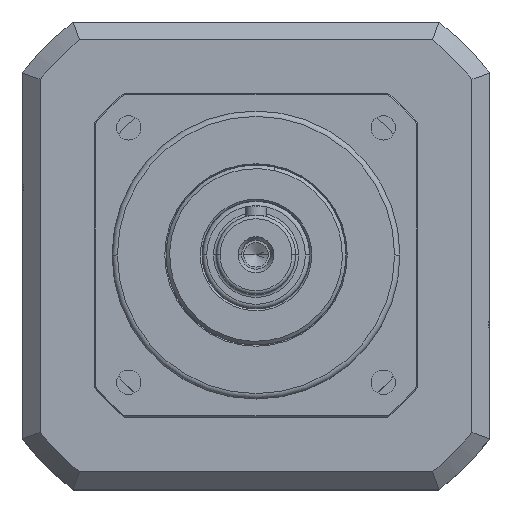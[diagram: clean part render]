
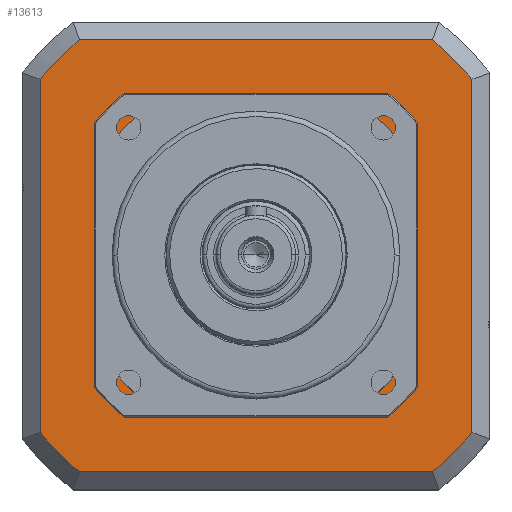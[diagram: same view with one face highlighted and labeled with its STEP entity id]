
A CAD part, top view. The second image highlights one B-rep face of the part: STEP entity #13613.
In plain terms, the highlighted planar face has unit normal (0, 0, 1).
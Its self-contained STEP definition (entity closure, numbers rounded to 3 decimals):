
#173 = CIRCLE ( 'NONE', #21411, 77.5 ) ;
#206 = VECTOR ( 'NONE', #16252, 1000. ) ;
#308 = CARTESIAN_POINT ( 'NONE',  ( 0., 0., -134. ) ) ;
#475 = DIRECTION ( 'NONE',  ( 0., 0., 1. ) ) ;
#1033 = VECTOR ( 'NONE', #20830, 1000. ) ;
#1130 = LINE ( 'NONE', #1470, #20808 ) ;
#1245 = DIRECTION ( 'NONE',  ( 1., 0., 0. ) ) ;
#1257 = CARTESIAN_POINT ( 'NONE',  ( -60., 0., -134. ) ) ;
#1271 = DIRECTION ( 'NONE',  ( 0., 0., 1. ) ) ;
#1349 = CARTESIAN_POINT ( 'NONE',  ( 0., 0., -134. ) ) ;
#1412 = CARTESIAN_POINT ( 'NONE',  ( -49.054, -60., -134. ) ) ;
#1470 = CARTESIAN_POINT ( 'NONE',  ( -24., 45., -134. ) ) ;
#1487 = DIRECTION ( 'NONE',  ( 1., 0., 0. ) ) ;
#1538 = AXIS2_PLACEMENT_3D ( 'NONE', #18566, #4929, #12008 ) ;
#1556 = CARTESIAN_POINT ( 'NONE',  ( 45., -24., -134. ) ) ;
#1833 = ORIENTED_EDGE ( 'NONE', *, *, #18789, .F. ) ;
#1886 = ORIENTED_EDGE ( 'NONE', *, *, #22046, .F. ) ;
#1948 = ORIENTED_EDGE ( 'NONE', *, *, #2676, .T. ) ;
#2408 = ORIENTED_EDGE ( 'NONE', *, *, #13353, .F. ) ;
#2528 = VERTEX_POINT ( 'NONE', #16392 ) ;
#2676 = EDGE_CURVE ( 'NONE', #3625, #5886, #6418, .T. ) ;
#2877 = DIRECTION ( 'NONE',  ( 1., 0., 0. ) ) ;
#3034 = CARTESIAN_POINT ( 'NONE',  ( 60., -49.054, -134. ) ) ;
#3199 = EDGE_CURVE ( 'NONE', #8225, #3625, #4095, .T. ) ;
#3478 = DIRECTION ( 'NONE',  ( 1., 0., 0. ) ) ;
#3593 = CIRCLE ( 'NONE', #21547, 51. ) ;
#3625 = VERTEX_POINT ( 'NONE', #15289 ) ;
#4095 = CIRCLE ( 'NONE', #16919, 77.5 ) ;
#4929 = DIRECTION ( 'NONE',  ( 0., 0., 1. ) ) ;
#5091 = CARTESIAN_POINT ( 'NONE',  ( 0., 0., -134. ) ) ;
#5197 = DIRECTION ( 'NONE',  ( 1., 0., 0. ) ) ;
#5380 = EDGE_CURVE ( 'NONE', #5599, #19102, #8931, .T. ) ;
#5599 = VERTEX_POINT ( 'NONE', #10629 ) ;
#5874 = VECTOR ( 'NONE', #16728, 1000. ) ;
#5886 = VERTEX_POINT ( 'NONE', #7717 ) ;
#6242 = DIRECTION ( 'NONE',  ( 1., 0., 0. ) ) ;
#6418 = LINE ( 'NONE', #1257, #7776 ) ;
#6543 = CARTESIAN_POINT ( 'NONE',  ( -24., 45., -134. ) ) ;
#6571 = DIRECTION ( 'NONE',  ( 0., 0., 1. ) ) ;
#6672 = CARTESIAN_POINT ( 'NONE',  ( 49.054, 60., -134. ) ) ;
#6834 = LINE ( 'NONE', #13806, #1033 ) ;
#6920 = VERTEX_POINT ( 'NONE', #1556 ) ;
#7175 = CARTESIAN_POINT ( 'NONE',  ( -45., 24., -134. ) ) ;
#7582 = EDGE_CURVE ( 'NONE', #17428, #19541, #17875, .T. ) ;
#7590 = VERTEX_POINT ( 'NONE', #6543 ) ;
#7717 = CARTESIAN_POINT ( 'NONE',  ( -60., -49.054, -134. ) ) ;
#7776 = VECTOR ( 'NONE', #21812, 1000. ) ;
#7902 = VERTEX_POINT ( 'NONE', #11211 ) ;
#8057 = LINE ( 'NONE', #15054, #9868 ) ;
#8225 = VERTEX_POINT ( 'NONE', #20149 ) ;
#8231 = CARTESIAN_POINT ( 'NONE',  ( -24., -45., -134. ) ) ;
#8419 = ORIENTED_EDGE ( 'NONE', *, *, #21764, .T. ) ;
#8467 = LINE ( 'NONE', #12014, #11680 ) ;
#8533 = CARTESIAN_POINT ( 'NONE',  ( 0., 0., -134. ) ) ;
#8644 = ORIENTED_EDGE ( 'NONE', *, *, #17375, .F. ) ;
#8663 = DIRECTION ( 'NONE',  ( 0., 0., 1. ) ) ;
#8726 = ORIENTED_EDGE ( 'NONE', *, *, #19504, .T. ) ;
#8931 = CIRCLE ( 'NONE', #16653, 77.5 ) ;
#9137 = AXIS2_PLACEMENT_3D ( 'NONE', #1349, #18911, #1245 ) ;
#9347 = FACE_OUTER_BOUND ( 'NONE', #19597, .T. ) ;
#9362 = LINE ( 'NONE', #10966, #206 ) ;
#9554 = CARTESIAN_POINT ( 'NONE',  ( 0., -60., -134. ) ) ;
#9868 = VECTOR ( 'NONE', #13437, 1000. ) ;
#9935 = ORIENTED_EDGE ( 'NONE', *, *, #22306, .T. ) ;
#9986 = ORIENTED_EDGE ( 'NONE', *, *, #20311, .T. ) ;
#10147 = DIRECTION ( 'NONE',  ( 1., 0., 0. ) ) ;
#10413 = DIRECTION ( 'NONE',  ( 0., 0., 1. ) ) ;
#10629 = CARTESIAN_POINT ( 'NONE',  ( 49.054, -60., -134. ) ) ;
#10966 = CARTESIAN_POINT ( 'NONE',  ( 60., 0., -134. ) ) ;
#10971 = ORIENTED_EDGE ( 'NONE', *, *, #5380, .T. ) ;
#11068 = PLANE ( 'NONE',  #15028 ) ;
#11211 = CARTESIAN_POINT ( 'NONE',  ( 60., 49.054, -134. ) ) ;
#11621 = DIRECTION ( 'NONE',  ( 1., 0., 0. ) ) ;
#11680 = VECTOR ( 'NONE', #12133, 1000. ) ;
#11845 = CARTESIAN_POINT ( 'NONE',  ( 45., 24., -134. ) ) ;
#11893 = EDGE_LOOP ( 'NONE', ( #17482, #8644, #19239, #21735, #1833, #16426, #2408, #1886 ) ) ;
#12008 = DIRECTION ( 'NONE',  ( 1., 0., 0. ) ) ;
#12014 = CARTESIAN_POINT ( 'NONE',  ( 0., 60., -134. ) ) ;
#12020 = VERTEX_POINT ( 'NONE', #1412 ) ;
#12044 = EDGE_CURVE ( 'NONE', #13543, #12946, #8057, .T. ) ;
#12133 = DIRECTION ( 'NONE',  ( -1., 0., 0. ) ) ;
#12798 = VECTOR ( 'NONE', #6242, 1000. ) ;
#12946 = VERTEX_POINT ( 'NONE', #15460 ) ;
#12982 = CIRCLE ( 'NONE', #19967, 51. ) ;
#13336 = EDGE_CURVE ( 'NONE', #5886, #12020, #22392, .T. ) ;
#13341 = ORIENTED_EDGE ( 'NONE', *, *, #3199, .T. ) ;
#13353 = EDGE_CURVE ( 'NONE', #2528, #19762, #17179, .T. ) ;
#13437 = DIRECTION ( 'NONE',  ( 0., -1., 0. ) ) ;
#13543 = VERTEX_POINT ( 'NONE', #7175 ) ;
#13613 = ADVANCED_FACE ( 'NONE', ( #9347, #14393 ), #11068, .T. ) ;
#13806 = CARTESIAN_POINT ( 'NONE',  ( 45., 24., -134. ) ) ;
#14393 = FACE_BOUND ( 'NONE', #11893, .T. ) ;
#14550 = AXIS2_PLACEMENT_3D ( 'NONE', #16994, #1271, #2877 ) ;
#14593 = EDGE_CURVE ( 'NONE', #19762, #6920, #21321, .T. ) ;
#14747 = DIRECTION ( 'NONE',  ( 0., 0., 1. ) ) ;
#15028 = AXIS2_PLACEMENT_3D ( 'NONE', #308, #14747, #19800 ) ;
#15054 = CARTESIAN_POINT ( 'NONE',  ( -45., 24., -134. ) ) ;
#15289 = CARTESIAN_POINT ( 'NONE',  ( -60., 49.054, -134. ) ) ;
#15460 = CARTESIAN_POINT ( 'NONE',  ( -45., -24., -134. ) ) ;
#16252 = DIRECTION ( 'NONE',  ( 0., 1., 0. ) ) ;
#16392 = CARTESIAN_POINT ( 'NONE',  ( -24., -45., -134. ) ) ;
#16426 = ORIENTED_EDGE ( 'NONE', *, *, #14593, .F. ) ;
#16653 = AXIS2_PLACEMENT_3D ( 'NONE', #21359, #475, #5197 ) ;
#16728 = DIRECTION ( 'NONE',  ( 1., 0., 0. ) ) ;
#16919 = AXIS2_PLACEMENT_3D ( 'NONE', #22584, #8663, #10147 ) ;
#16994 = CARTESIAN_POINT ( 'NONE',  ( 0., 0., -134. ) ) ;
#16999 = EDGE_CURVE ( 'NONE', #19541, #7590, #1130, .T. ) ;
#17179 = LINE ( 'NONE', #8231, #5874 ) ;
#17375 = EDGE_CURVE ( 'NONE', #7590, #13543, #3593, .T. ) ;
#17428 = VERTEX_POINT ( 'NONE', #11845 ) ;
#17482 = ORIENTED_EDGE ( 'NONE', *, *, #12044, .F. ) ;
#17875 = CIRCLE ( 'NONE', #14550, 51. ) ;
#18544 = CARTESIAN_POINT ( 'NONE',  ( 24., -45., -134. ) ) ;
#18566 = CARTESIAN_POINT ( 'NONE',  ( 0., 0., -134. ) ) ;
#18789 = EDGE_CURVE ( 'NONE', #6920, #17428, #6834, .T. ) ;
#18911 = DIRECTION ( 'NONE',  ( 0., 0., 1. ) ) ;
#18912 = DIRECTION ( 'NONE',  ( -1., 0., 0. ) ) ;
#19102 = VERTEX_POINT ( 'NONE', #3034 ) ;
#19147 = CARTESIAN_POINT ( 'NONE',  ( 24., 45., -134. ) ) ;
#19239 = ORIENTED_EDGE ( 'NONE', *, *, #16999, .F. ) ;
#19370 = CARTESIAN_POINT ( 'NONE',  ( 0., 0., -134. ) ) ;
#19504 = EDGE_CURVE ( 'NONE', #20783, #8225, #8467, .T. ) ;
#19541 = VERTEX_POINT ( 'NONE', #19147 ) ;
#19597 = EDGE_LOOP ( 'NONE', ( #10971, #9935, #8419, #8726, #13341, #1948, #19910, #9986 ) ) ;
#19762 = VERTEX_POINT ( 'NONE', #18544 ) ;
#19800 = DIRECTION ( 'NONE',  ( 1., 0., 0. ) ) ;
#19910 = ORIENTED_EDGE ( 'NONE', *, *, #13336, .T. ) ;
#19967 = AXIS2_PLACEMENT_3D ( 'NONE', #19370, #10413, #1487 ) ;
#20013 = LINE ( 'NONE', #9554, #12798 ) ;
#20149 = CARTESIAN_POINT ( 'NONE',  ( -49.054, 60., -134. ) ) ;
#20311 = EDGE_CURVE ( 'NONE', #12020, #5599, #20013, .T. ) ;
#20475 = DIRECTION ( 'NONE',  ( 0., 0., 1. ) ) ;
#20783 = VERTEX_POINT ( 'NONE', #6672 ) ;
#20808 = VECTOR ( 'NONE', #18912, 1000. ) ;
#20830 = DIRECTION ( 'NONE',  ( 0., 1., 0. ) ) ;
#21321 = CIRCLE ( 'NONE', #1538, 51. ) ;
#21359 = CARTESIAN_POINT ( 'NONE',  ( 0., 0., -134. ) ) ;
#21411 = AXIS2_PLACEMENT_3D ( 'NONE', #8533, #20475, #11621 ) ;
#21547 = AXIS2_PLACEMENT_3D ( 'NONE', #5091, #6571, #3478 ) ;
#21735 = ORIENTED_EDGE ( 'NONE', *, *, #7582, .F. ) ;
#21764 = EDGE_CURVE ( 'NONE', #7902, #20783, #173, .T. ) ;
#21812 = DIRECTION ( 'NONE',  ( 0., -1., 0. ) ) ;
#22046 = EDGE_CURVE ( 'NONE', #12946, #2528, #12982, .T. ) ;
#22306 = EDGE_CURVE ( 'NONE', #19102, #7902, #9362, .T. ) ;
#22392 = CIRCLE ( 'NONE', #9137, 77.5 ) ;
#22584 = CARTESIAN_POINT ( 'NONE',  ( 0., 0., -134. ) ) ;
